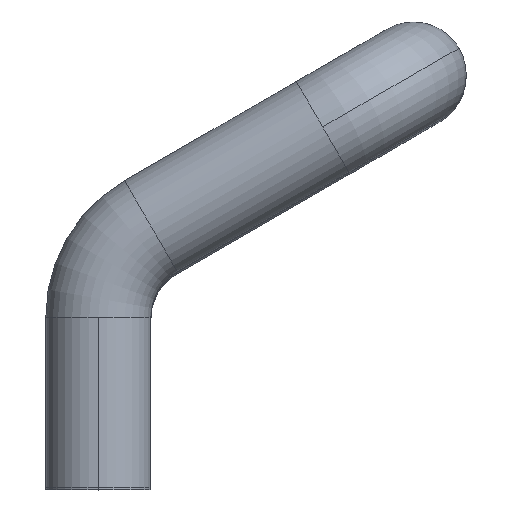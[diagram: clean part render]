
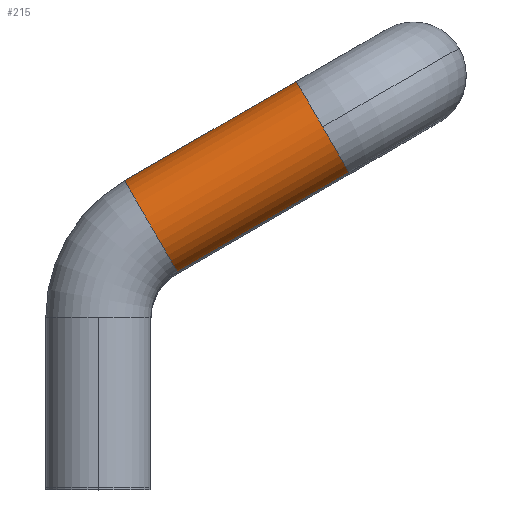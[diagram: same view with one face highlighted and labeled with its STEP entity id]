
A CAD part, top view. The second image highlights one B-rep face of the part: STEP entity #215.
In plain terms, the highlighted cylindrical face has radius 5 mm (diameter 10 mm), a partial arc.
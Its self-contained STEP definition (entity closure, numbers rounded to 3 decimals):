
#5 = EDGE_LOOP ( 'NONE', ( #493, #787, #532, #167, #723 ) ) ;
#23 = AXIS2_PLACEMENT_3D ( 'NONE', #639, #699, #563 ) ;
#24 = AXIS2_PLACEMENT_3D ( 'NONE', #342, #694, #627 ) ;
#28 = CIRCLE ( 'NONE', #609, 5. ) ;
#71 = CARTESIAN_POINT ( 'NONE',  ( 2.5, 29.217, 0. ) ) ;
#86 = CARTESIAN_POINT ( 'NONE',  ( 7.5, 20.557, 0. ) ) ;
#111 = DIRECTION ( 'NONE',  ( 0., 0., 1. ) ) ;
#125 = EDGE_CURVE ( 'NONE', #136, #429, #28, .T. ) ;
#135 = CYLINDRICAL_SURFACE ( 'NONE', #24, 5. ) ;
#136 = VERTEX_POINT ( 'NONE', #777 ) ;
#140 = DIRECTION ( 'NONE',  ( 0.866, 0.5, 0. ) ) ;
#167 = ORIENTED_EDGE ( 'NONE', *, *, #380, .F. ) ;
#188 = CARTESIAN_POINT ( 'NONE',  ( 21.34, 34.321, 0. ) ) ;
#212 = VECTOR ( 'NONE', #494, 1000. ) ;
#215 = ADVANCED_FACE ( 'NONE', ( #561 ), #135, .T. ) ;
#254 = CARTESIAN_POINT ( 'NONE',  ( 23.84, 29.99, 0. ) ) ;
#264 = CARTESIAN_POINT ( 'NONE',  ( 18.84, 38.651, 0. ) ) ;
#290 = VERTEX_POINT ( 'NONE', #86 ) ;
#342 = CARTESIAN_POINT ( 'NONE',  ( 5., 24.887, 0. ) ) ;
#351 = LINE ( 'NONE', #837, #490 ) ;
#380 = EDGE_CURVE ( 'NONE', #584, #136, #685, .T. ) ;
#395 = CARTESIAN_POINT ( 'NONE',  ( 21.34, 34.321, 0. ) ) ;
#409 = DIRECTION ( 'NONE',  ( 0.866, 0.5, 0. ) ) ;
#429 = VERTEX_POINT ( 'NONE', #254 ) ;
#490 = VECTOR ( 'NONE', #140, 1000. ) ;
#493 = ORIENTED_EDGE ( 'NONE', *, *, #881, .T. ) ;
#494 = DIRECTION ( 'NONE',  ( 0.866, 0.5, 0. ) ) ;
#532 = ORIENTED_EDGE ( 'NONE', *, *, #125, .F. ) ;
#561 = FACE_OUTER_BOUND ( 'NONE', #5, .T. ) ;
#563 = DIRECTION ( 'NONE',  ( 0., 0., 1. ) ) ;
#584 = VERTEX_POINT ( 'NONE', #264 ) ;
#609 = AXIS2_PLACEMENT_3D ( 'NONE', #188, #409, #908 ) ;
#613 = VERTEX_POINT ( 'NONE', #623 ) ;
#623 = CARTESIAN_POINT ( 'NONE',  ( 2.5, 29.217, 0. ) ) ;
#627 = DIRECTION ( 'NONE',  ( -0.5, 0.866, 0. ) ) ;
#637 = EDGE_CURVE ( 'NONE', #290, #429, #351, .T. ) ;
#639 = CARTESIAN_POINT ( 'NONE',  ( 5., 24.887, 0. ) ) ;
#685 = CIRCLE ( 'NONE', #875, 5. ) ;
#694 = DIRECTION ( 'NONE',  ( 0.866, 0.5, 0. ) ) ;
#699 = DIRECTION ( 'NONE',  ( 0.866, 0.5, 0. ) ) ;
#723 = ORIENTED_EDGE ( 'NONE', *, *, #889, .F. ) ;
#726 = CIRCLE ( 'NONE', #23, 5. ) ;
#777 = CARTESIAN_POINT ( 'NONE',  ( 21.34, 34.321, 5. ) ) ;
#787 = ORIENTED_EDGE ( 'NONE', *, *, #637, .T. ) ;
#808 = DIRECTION ( 'NONE',  ( 0.866, 0.5, 0. ) ) ;
#837 = CARTESIAN_POINT ( 'NONE',  ( 7.5, 20.557, 0. ) ) ;
#875 = AXIS2_PLACEMENT_3D ( 'NONE', #395, #808, #111 ) ;
#881 = EDGE_CURVE ( 'NONE', #613, #290, #726, .T. ) ;
#889 = EDGE_CURVE ( 'NONE', #613, #584, #905, .T. ) ;
#905 = LINE ( 'NONE', #71, #212 ) ;
#908 = DIRECTION ( 'NONE',  ( 0., 0., 1. ) ) ;
